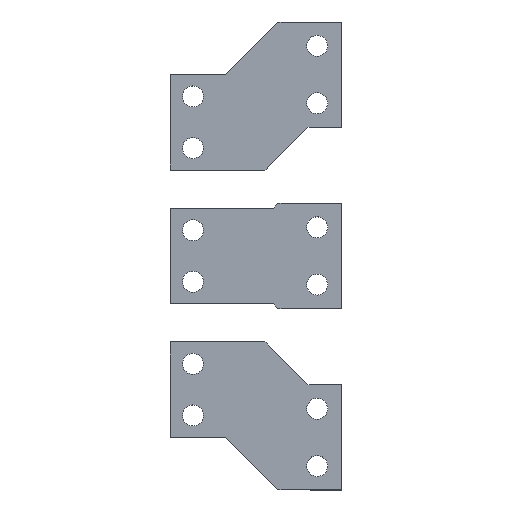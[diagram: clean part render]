
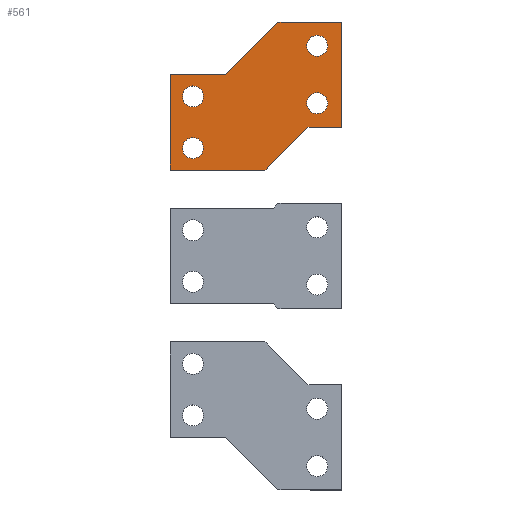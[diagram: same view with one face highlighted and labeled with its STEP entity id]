
A CAD part, top view. The second image highlights one B-rep face of the part: STEP entity #561.
In plain terms, the highlighted planar face has unit normal (0, 0, 1).
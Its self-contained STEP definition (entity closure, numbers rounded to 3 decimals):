
#3 = CARTESIAN_POINT ( 'NONE',  ( 942.817, 172.5, 67. ) ) ;
#6 = DIRECTION ( 'NONE',  ( 0., 0., 1. ) ) ;
#17 = FACE_BOUND ( 'NONE', #660, .T. ) ;
#20 = EDGE_LOOP ( 'NONE', ( #654, #1266 ) ) ;
#35 = CARTESIAN_POINT ( 'NONE',  ( 882.607, 188.5, 67. ) ) ;
#42 = ORIENTED_EDGE ( 'NONE', *, *, #1156, .T. ) ;
#46 = VERTEX_POINT ( 'NONE', #208 ) ;
#47 = DIRECTION ( 'NONE',  ( 1., 0., 0. ) ) ;
#71 = CARTESIAN_POINT ( 'NONE',  ( 953.107, 215., 67. ) ) ;
#86 = CARTESIAN_POINT ( 'NONE',  ( 942.107, 185., 67. ) ) ;
#92 = VERTEX_POINT ( 'NONE', #733 ) ;
#99 = AXIS2_PLACEMENT_3D ( 'NONE', #196, #750, #586 ) ;
#104 = EDGE_CURVE ( 'NONE', #1150, #1271, #1170, .T. ) ;
#125 = DIRECTION ( 'NONE',  ( -0.707, -0.707, 0. ) ) ;
#128 = EDGE_CURVE ( 'NONE', #301, #547, #744, .T. ) ;
#135 = CARTESIAN_POINT ( 'NONE',  ( 947.607, 215., 67. ) ) ;
#144 = CARTESIAN_POINT ( 'NONE',  ( 870.607, 200., 67. ) ) ;
#156 = DIRECTION ( 'NONE',  ( 1., 0., 0. ) ) ;
#158 = EDGE_CURVE ( 'NONE', #301, #1231, #1093, .T. ) ;
#165 = DIRECTION ( 'NONE',  ( 0., 0., 1. ) ) ;
#196 = CARTESIAN_POINT ( 'NONE',  ( 882.607, 188.5, 67. ) ) ;
#197 = ORIENTED_EDGE ( 'NONE', *, *, #1021, .F. ) ;
#202 = AXIS2_PLACEMENT_3D ( 'NONE', #571, #761, #953 ) ;
#206 = CIRCLE ( 'NONE', #476, 5.5 ) ;
#208 = CARTESIAN_POINT ( 'NONE',  ( 877.107, 188.5, 67. ) ) ;
#217 = CARTESIAN_POINT ( 'NONE',  ( 947.607, 185., 67. ) ) ;
#236 = DIRECTION ( 'NONE',  ( 0., 0., 1. ) ) ;
#252 = CARTESIAN_POINT ( 'NONE',  ( 942.817, 172.5, 67. ) ) ;
#259 = DIRECTION ( 'NONE',  ( 0., 0., 1. ) ) ;
#261 = EDGE_CURVE ( 'NONE', #1216, #46, #1210, .T. ) ;
#267 = ORIENTED_EDGE ( 'NONE', *, *, #128, .T. ) ;
#283 = VERTEX_POINT ( 'NONE', #86 ) ;
#301 = VERTEX_POINT ( 'NONE', #1154 ) ;
#317 = VERTEX_POINT ( 'NONE', #867 ) ;
#325 = FACE_BOUND ( 'NONE', #859, .T. ) ;
#331 = VECTOR ( 'NONE', #449, 1000. ) ;
#337 = ORIENTED_EDGE ( 'NONE', *, *, #1227, .F. ) ;
#342 = DIRECTION ( 'NONE',  ( 1., 0., 0. ) ) ;
#352 = VERTEX_POINT ( 'NONE', #490 ) ;
#362 = EDGE_CURVE ( 'NONE', #283, #92, #472, .T. ) ;
#372 = DIRECTION ( 'NONE',  ( 1., 0., 0. ) ) ;
#374 = VECTOR ( 'NONE', #1264, 1000. ) ;
#385 = CARTESIAN_POINT ( 'NONE',  ( 927.107, 227.5, 67. ) ) ;
#386 = VERTEX_POINT ( 'NONE', #71 ) ;
#391 = VECTOR ( 'NONE', #936, 1000. ) ;
#405 = LINE ( 'NONE', #1092, #391 ) ;
#409 = DIRECTION ( 'NONE',  ( 1., 0., 0. ) ) ;
#413 = AXIS2_PLACEMENT_3D ( 'NONE', #217, #710, #409 ) ;
#416 = EDGE_LOOP ( 'NONE', ( #337, #1164, #267, #582, #1075, #1118, #1202, #42 ) ) ;
#418 = FACE_BOUND ( 'NONE', #748, .T. ) ;
#446 = VERTEX_POINT ( 'NONE', #1086 ) ;
#448 = AXIS2_PLACEMENT_3D ( 'NONE', #589, #6, #511 ) ;
#449 = DIRECTION ( 'NONE',  ( -1., 0., 0. ) ) ;
#465 = CARTESIAN_POINT ( 'NONE',  ( 888.107, 161.5, 67. ) ) ;
#472 = CIRCLE ( 'NONE', #202, 5.5 ) ;
#475 = AXIS2_PLACEMENT_3D ( 'NONE', #1030, #259, #1137 ) ;
#476 = AXIS2_PLACEMENT_3D ( 'NONE', #135, #629, #47 ) ;
#490 = CARTESIAN_POINT ( 'NONE',  ( 942.817, 172.5, 67. ) ) ;
#505 = VERTEX_POINT ( 'NONE', #707 ) ;
#511 = DIRECTION ( 'NONE',  ( 1., 0., 0. ) ) ;
#524 = EDGE_CURVE ( 'NONE', #317, #446, #405, .T. ) ;
#531 = PLANE ( 'NONE',  #475 ) ;
#541 = EDGE_CURVE ( 'NONE', #352, #446, #886, .T. ) ;
#544 = DIRECTION ( 'NONE',  ( 0., -1., 0. ) ) ;
#547 = VERTEX_POINT ( 'NONE', #908 ) ;
#561 = ADVANCED_FACE ( 'NONE', ( #17, #418, #796, #325, #1097 ), #531, .T. ) ;
#566 = CARTESIAN_POINT ( 'NONE',  ( 960.607, 172.5, 67. ) ) ;
#570 = EDGE_CURVE ( 'NONE', #352, #828, #1123, .T. ) ;
#571 = CARTESIAN_POINT ( 'NONE',  ( 947.607, 185., 67. ) ) ;
#582 = ORIENTED_EDGE ( 'NONE', *, *, #1139, .T. ) ;
#586 = DIRECTION ( 'NONE',  ( 1., 0., 0. ) ) ;
#589 = CARTESIAN_POINT ( 'NONE',  ( 947.607, 215., 67. ) ) ;
#594 = ORIENTED_EDGE ( 'NONE', *, *, #362, .F. ) ;
#628 = VERTEX_POINT ( 'NONE', #1239 ) ;
#629 = DIRECTION ( 'NONE',  ( 0., 0., 1. ) ) ;
#633 = CARTESIAN_POINT ( 'NONE',  ( 882.607, 161.5, 67. ) ) ;
#649 = DIRECTION ( 'NONE',  ( 1., 0., 0. ) ) ;
#653 = LINE ( 'NONE', #566, #374 ) ;
#654 = ORIENTED_EDGE ( 'NONE', *, *, #104, .F. ) ;
#660 = EDGE_LOOP ( 'NONE', ( #197, #869 ) ) ;
#700 = CIRCLE ( 'NONE', #413, 5.5 ) ;
#707 = CARTESIAN_POINT ( 'NONE',  ( 960.607, 227.5, 67. ) ) ;
#710 = DIRECTION ( 'NONE',  ( 0., 0., 1. ) ) ;
#733 = CARTESIAN_POINT ( 'NONE',  ( 953.107, 185., 67. ) ) ;
#739 = CARTESIAN_POINT ( 'NONE',  ( 899.607, 200., 67. ) ) ;
#744 = LINE ( 'NONE', #1234, #331 ) ;
#748 = EDGE_LOOP ( 'NONE', ( #1211, #594 ) ) ;
#750 = DIRECTION ( 'NONE',  ( 0., 0., 1. ) ) ;
#761 = DIRECTION ( 'NONE',  ( 0., 0., 1. ) ) ;
#763 = CARTESIAN_POINT ( 'NONE',  ( 927.107, 227.5, 67. ) ) ;
#782 = EDGE_CURVE ( 'NONE', #628, #386, #1225, .T. ) ;
#796 = FACE_BOUND ( 'NONE', #20, .T. ) ;
#828 = VERTEX_POINT ( 'NONE', #957 ) ;
#836 = AXIS2_PLACEMENT_3D ( 'NONE', #633, #1104, #938 ) ;
#859 = EDGE_LOOP ( 'NONE', ( #1015, #911 ) ) ;
#864 = LINE ( 'NONE', #385, #1208 ) ;
#867 = CARTESIAN_POINT ( 'NONE',  ( 870.607, 150., 67. ) ) ;
#869 = ORIENTED_EDGE ( 'NONE', *, *, #782, .F. ) ;
#875 = VECTOR ( 'NONE', #649, 1000. ) ;
#878 = CIRCLE ( 'NONE', #1059, 5.5 ) ;
#886 = LINE ( 'NONE', #3, #1018 ) ;
#896 = CARTESIAN_POINT ( 'NONE',  ( 877.107, 161.5, 67. ) ) ;
#908 = CARTESIAN_POINT ( 'NONE',  ( 870.607, 200., 67. ) ) ;
#911 = ORIENTED_EDGE ( 'NONE', *, *, #1108, .F. ) ;
#922 = EDGE_CURVE ( 'NONE', #92, #283, #700, .T. ) ;
#936 = DIRECTION ( 'NONE',  ( 1., 0., 0. ) ) ;
#938 = DIRECTION ( 'NONE',  ( 1., 0., 0. ) ) ;
#942 = DIRECTION ( 'NONE',  ( 0.707, 0.707, 0. ) ) ;
#953 = DIRECTION ( 'NONE',  ( 1., 0., 0. ) ) ;
#957 = CARTESIAN_POINT ( 'NONE',  ( 960.607, 172.5, 67. ) ) ;
#1015 = ORIENTED_EDGE ( 'NONE', *, *, #261, .F. ) ;
#1018 = VECTOR ( 'NONE', #125, 1000. ) ;
#1020 = CIRCLE ( 'NONE', #836, 5.5 ) ;
#1021 = EDGE_CURVE ( 'NONE', #386, #628, #206, .T. ) ;
#1029 = LINE ( 'NONE', #144, #1275 ) ;
#1030 = CARTESIAN_POINT ( 'NONE',  ( 897.607, -70., 67. ) ) ;
#1036 = AXIS2_PLACEMENT_3D ( 'NONE', #1099, #165, #156 ) ;
#1054 = CARTESIAN_POINT ( 'NONE',  ( 888.107, 188.5, 67. ) ) ;
#1059 = AXIS2_PLACEMENT_3D ( 'NONE', #35, #236, #342 ) ;
#1075 = ORIENTED_EDGE ( 'NONE', *, *, #524, .T. ) ;
#1082 = VECTOR ( 'NONE', #942, 1000. ) ;
#1086 = CARTESIAN_POINT ( 'NONE',  ( 920.317, 150., 67. ) ) ;
#1092 = CARTESIAN_POINT ( 'NONE',  ( 870.607, 150., 67. ) ) ;
#1093 = LINE ( 'NONE', #739, #1082 ) ;
#1097 = FACE_OUTER_BOUND ( 'NONE', #416, .T. ) ;
#1099 = CARTESIAN_POINT ( 'NONE',  ( 882.607, 161.5, 67. ) ) ;
#1104 = DIRECTION ( 'NONE',  ( 0., 0., 1. ) ) ;
#1108 = EDGE_CURVE ( 'NONE', #46, #1216, #878, .T. ) ;
#1118 = ORIENTED_EDGE ( 'NONE', *, *, #541, .F. ) ;
#1121 = EDGE_CURVE ( 'NONE', #1271, #1150, #1020, .T. ) ;
#1123 = LINE ( 'NONE', #252, #875 ) ;
#1137 = DIRECTION ( 'NONE',  ( 1., 0., 0. ) ) ;
#1139 = EDGE_CURVE ( 'NONE', #547, #317, #1029, .T. ) ;
#1150 = VERTEX_POINT ( 'NONE', #465 ) ;
#1154 = CARTESIAN_POINT ( 'NONE',  ( 899.607, 200., 67. ) ) ;
#1156 = EDGE_CURVE ( 'NONE', #828, #505, #653, .T. ) ;
#1164 = ORIENTED_EDGE ( 'NONE', *, *, #158, .F. ) ;
#1170 = CIRCLE ( 'NONE', #1036, 5.5 ) ;
#1202 = ORIENTED_EDGE ( 'NONE', *, *, #570, .T. ) ;
#1208 = VECTOR ( 'NONE', #372, 1000. ) ;
#1210 = CIRCLE ( 'NONE', #99, 5.5 ) ;
#1211 = ORIENTED_EDGE ( 'NONE', *, *, #922, .F. ) ;
#1216 = VERTEX_POINT ( 'NONE', #1054 ) ;
#1225 = CIRCLE ( 'NONE', #448, 5.5 ) ;
#1227 = EDGE_CURVE ( 'NONE', #1231, #505, #864, .T. ) ;
#1231 = VERTEX_POINT ( 'NONE', #763 ) ;
#1234 = CARTESIAN_POINT ( 'NONE',  ( 899.607, 200., 67. ) ) ;
#1239 = CARTESIAN_POINT ( 'NONE',  ( 942.107, 215., 67. ) ) ;
#1264 = DIRECTION ( 'NONE',  ( 0., 1., 0. ) ) ;
#1266 = ORIENTED_EDGE ( 'NONE', *, *, #1121, .F. ) ;
#1271 = VERTEX_POINT ( 'NONE', #896 ) ;
#1275 = VECTOR ( 'NONE', #544, 1000. ) ;
